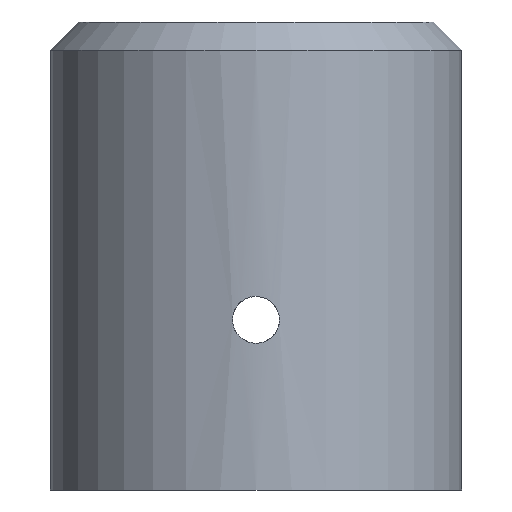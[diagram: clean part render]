
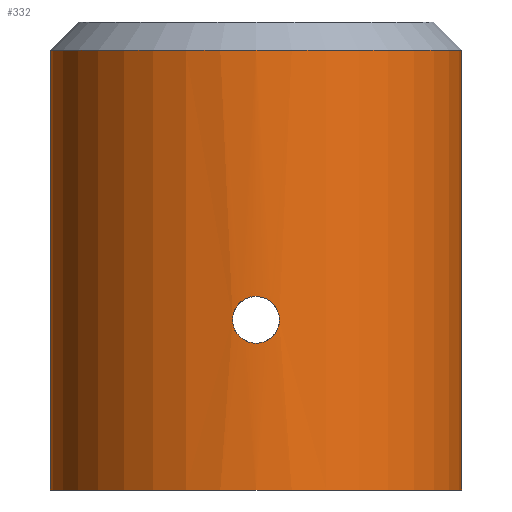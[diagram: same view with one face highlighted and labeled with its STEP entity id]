
A CAD part, front view. The second image highlights one B-rep face of the part: STEP entity #332.
In plain terms, the highlighted cylindrical face has radius 14.5 mm (diameter 29 mm), a partial arc.
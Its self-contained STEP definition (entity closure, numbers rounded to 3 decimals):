
#134 = VERTEX_POINT ( 'NONE', #746 ) ;
#136 = EDGE_CURVE ( 'NONE', #137, #134, #745, .T. ) ;
#137 = VERTEX_POINT ( 'NONE', #744 ) ;
#240 = EDGE_CURVE ( 'NONE', #241, #346, #1207, .T. ) ;
#241 = VERTEX_POINT ( 'NONE', #1203 ) ;
#245 = ORIENTED_EDGE ( 'NONE', *, *, #246, .T. ) ;
#246 = EDGE_CURVE ( 'NONE', #443, #241, #1200, .T. ) ;
#247 = ORIENTED_EDGE ( 'NONE', *, *, #240, .T. ) ;
#250 = ORIENTED_EDGE ( 'NONE', *, *, #331, .F. ) ;
#251 = EDGE_LOOP ( 'NONE', ( #252, #253 ) ) ;
#252 = ORIENTED_EDGE ( 'NONE', *, *, #136, .T. ) ;
#253 = ORIENTED_EDGE ( 'NONE', *, *, #254, .T. ) ;
#254 = EDGE_CURVE ( 'NONE', #134, #137, #1256, .T. ) ;
#331 = EDGE_CURVE ( 'NONE', #446, #346, #1543, .T. ) ;
#332 = ADVANCED_FACE ( 'NONE', ( #1534, #1533 ), #1531, .T. ) ;
#333 = EDGE_LOOP ( 'NONE', ( #334, #245, #247, #250 ) ) ;
#334 = ORIENTED_EDGE ( 'NONE', *, *, #445, .F. ) ;
#346 = VERTEX_POINT ( 'NONE', #1522 ) ;
#443 = VERTEX_POINT ( 'NONE', #1930 ) ;
#445 = EDGE_CURVE ( 'NONE', #443, #446, #1929, .T. ) ;
#446 = VERTEX_POINT ( 'NONE', #1925 ) ;
#727 = CARTESIAN_POINT ( 'NONE',  ( -1.65, -14.406, -21.216 ) ) ;
#728 = CARTESIAN_POINT ( 'NONE',  ( -1.607, -14.411, -21.433 ) ) ;
#729 = CARTESIAN_POINT ( 'NONE',  ( -1.442, -14.428, -21.83 ) ) ;
#730 = CARTESIAN_POINT ( 'NONE',  ( -1.319, -14.441, -22.014 ) ) ;
#731 = CARTESIAN_POINT ( 'NONE',  ( -1.091, -14.459, -22.243 ) ) ;
#732 = CARTESIAN_POINT ( 'NONE',  ( -1.006, -14.465, -22.312 ) ) ;
#733 = CARTESIAN_POINT ( 'NONE',  ( -0.827, -14.477, -22.432 ) ) ;
#738 = CARTESIAN_POINT ( 'NONE',  ( -0.732, -14.482, -22.483 ) ) ;
#739 = CARTESIAN_POINT ( 'NONE',  ( -0.532, -14.491, -22.566 ) ) ;
#740 = CARTESIAN_POINT ( 'NONE',  ( -0.427, -14.494, -22.597 ) ) ;
#741 = CARTESIAN_POINT ( 'NONE',  ( -0.216, -14.499, -22.639 ) ) ;
#742 = CARTESIAN_POINT ( 'NONE',  ( -0.109, -14.5, -22.65 ) ) ;
#743 = CARTESIAN_POINT ( 'NONE',  ( 0., -14.5, -22.65 ) ) ;
#744 = CARTESIAN_POINT ( 'NONE',  ( 0., -14.5, -22.65 ) ) ;
#745 = B_SPLINE_CURVE_WITH_KNOTS ( 'NONE', 3,
 ( #743, #742, #741, #740, #739, #738, #733, #732, #731, #730, #729, #728, #727, #868, #867, #866, #865, #864, #863, #862, #861, #860, #859, #858, #857, #856, #855, #854, #853, #852 ),
 .UNSPECIFIED., .F., .F.,
 ( 4, 2, 2, 2, 2, 2, 2, 2, 2, 2, 2, 2, 2, 2, 4 ),
 ( 0., 0., 0.001, 0.001, 0.001, 0.002, 0.003, 0.003, 0.003, 0.004, 0.004, 0.004, 0.005, 0.005, 0.005 ),
 .UNSPECIFIED. ) ;
#746 = CARTESIAN_POINT ( 'NONE',  ( 0., -14.5, -19.35 ) ) ;
#852 = CARTESIAN_POINT ( 'NONE',  ( 0., -14.5, -19.35 ) ) ;
#853 = CARTESIAN_POINT ( 'NONE',  ( -0.108, -14.5, -19.35 ) ) ;
#854 = CARTESIAN_POINT ( 'NONE',  ( -0.217, -14.499, -19.361 ) ) ;
#855 = CARTESIAN_POINT ( 'NONE',  ( -0.429, -14.494, -19.403 ) ) ;
#856 = CARTESIAN_POINT ( 'NONE',  ( -0.532, -14.491, -19.434 ) ) ;
#857 = CARTESIAN_POINT ( 'NONE',  ( -0.731, -14.482, -19.517 ) ) ;
#858 = CARTESIAN_POINT ( 'NONE',  ( -0.828, -14.477, -19.569 ) ) ;
#859 = CARTESIAN_POINT ( 'NONE',  ( -1.007, -14.465, -19.688 ) ) ;
#860 = CARTESIAN_POINT ( 'NONE',  ( -1.09, -14.459, -19.756 ) ) ;
#861 = CARTESIAN_POINT ( 'NONE',  ( -1.244, -14.447, -19.91 ) ) ;
#862 = CARTESIAN_POINT ( 'NONE',  ( -1.312, -14.441, -19.994 ) ) ;
#863 = CARTESIAN_POINT ( 'NONE',  ( -1.432, -14.429, -20.172 ) ) ;
#864 = CARTESIAN_POINT ( 'NONE',  ( -1.483, -14.424, -20.269 ) ) ;
#865 = CARTESIAN_POINT ( 'NONE',  ( -1.566, -14.415, -20.469 ) ) ;
#866 = CARTESIAN_POINT ( 'NONE',  ( -1.597, -14.412, -20.572 ) ) ;
#867 = CARTESIAN_POINT ( 'NONE',  ( -1.639, -14.407, -20.783 ) ) ;
#868 = CARTESIAN_POINT ( 'NONE',  ( -1.65, -14.406, -20.893 ) ) ;
#1157 = CARTESIAN_POINT ( 'NONE',  ( 1.566, -14.415, -21.531 ) ) ;
#1158 = CARTESIAN_POINT ( 'NONE',  ( 1.598, -14.412, -21.426 ) ) ;
#1159 = CARTESIAN_POINT ( 'NONE',  ( 1.639, -14.407, -21.215 ) ) ;
#1160 = CARTESIAN_POINT ( 'NONE',  ( 1.65, -14.406, -21.108 ) ) ;
#1161 = CARTESIAN_POINT ( 'NONE',  ( 1.65, -14.406, -20.89 ) ) ;
#1162 = CARTESIAN_POINT ( 'NONE',  ( 1.639, -14.407, -20.782 ) ) ;
#1163 = CARTESIAN_POINT ( 'NONE',  ( 1.597, -14.412, -20.572 ) ) ;
#1164 = CARTESIAN_POINT ( 'NONE',  ( 1.565, -14.415, -20.467 ) ) ;
#1165 = CARTESIAN_POINT ( 'NONE',  ( 1.482, -14.424, -20.267 ) ) ;
#1166 = CARTESIAN_POINT ( 'NONE',  ( 1.432, -14.429, -20.172 ) ) ;
#1167 = CARTESIAN_POINT ( 'NONE',  ( 1.312, -14.441, -19.993 ) ) ;
#1168 = CARTESIAN_POINT ( 'NONE',  ( 1.242, -14.447, -19.908 ) ) ;
#1169 = CARTESIAN_POINT ( 'NONE',  ( 1.014, -14.465, -19.68 ) ) ;
#1184 = CARTESIAN_POINT ( 'NONE',  ( 0., -14.5, -22.65 ) ) ;
#1185 = CARTESIAN_POINT ( 'NONE',  ( 0.218, -14.5, -22.65 ) ) ;
#1186 = CARTESIAN_POINT ( 'NONE',  ( 0.435, -14.495, -22.606 ) ) ;
#1187 = CARTESIAN_POINT ( 'NONE',  ( 0.832, -14.477, -22.441 ) ) ;
#1188 = CARTESIAN_POINT ( 'NONE',  ( 1.016, -14.465, -22.318 ) ) ;
#1189 = CARTESIAN_POINT ( 'NONE',  ( 1.244, -14.447, -22.09 ) ) ;
#1190 = CARTESIAN_POINT ( 'NONE',  ( 1.313, -14.441, -22.005 ) ) ;
#1191 = CARTESIAN_POINT ( 'NONE',  ( 1.433, -14.429, -21.826 ) ) ;
#1192 = CARTESIAN_POINT ( 'NONE',  ( 1.483, -14.424, -21.731 ) ) ;
#1196 = DIRECTION ( 'NONE',  ( 1., 0., 0. ) ) ;
#1197 = DIRECTION ( 'NONE',  ( 0., 0., 1. ) ) ;
#1198 = CARTESIAN_POINT ( 'NONE',  ( 0., 0., -33. ) ) ;
#1199 = AXIS2_PLACEMENT_3D ( 'NONE', #1198, #1197, #1196 ) ;
#1200 = CIRCLE ( 'NONE', #1199, 14.5 ) ;
#1203 = CARTESIAN_POINT ( 'NONE',  ( 14.5, 0., -33. ) ) ;
#1204 = DIRECTION ( 'NONE',  ( 0., 0., 1. ) ) ;
#1205 = VECTOR ( 'NONE', #1204, 1000. ) ;
#1206 = CARTESIAN_POINT ( 'NONE',  ( 14.5, 0., 0. ) ) ;
#1207 = LINE ( 'NONE', #1206, #1205 ) ;
#1251 = CARTESIAN_POINT ( 'NONE',  ( 0.83, -14.478, -19.558 ) ) ;
#1252 = CARTESIAN_POINT ( 'NONE',  ( 0.433, -14.495, -19.393 ) ) ;
#1253 = CARTESIAN_POINT ( 'NONE',  ( 0.215, -14.5, -19.35 ) ) ;
#1254 = CARTESIAN_POINT ( 'NONE',  ( 0., -14.5, -19.35 ) ) ;
#1256 = B_SPLINE_CURVE_WITH_KNOTS ( 'NONE', 3,
 ( #1254, #1253, #1252, #1251, #1169, #1168, #1167, #1166, #1165, #1164, #1163, #1162, #1161, #1160, #1159, #1158, #1157, #1192, #1191, #1190, #1189, #1188, #1187, #1186, #1185, #1184 ),
 .UNSPECIFIED., .F., .F.,
 ( 4, 2, 2, 2, 2, 2, 2, 2, 2, 2, 2, 2, 4 ),
 ( 0.005, 0.006, 0.006, 0.007, 0.007, 0.007, 0.008, 0.008, 0.008, 0.009, 0.009, 0.01, 0.01 ),
 .UNSPECIFIED. ) ;
#1522 = CARTESIAN_POINT ( 'NONE',  ( 14.5, 0., -2. ) ) ;
#1531 = CYLINDRICAL_SURFACE ( 'NONE', #1532, 14.5 ) ;
#1532 = AXIS2_PLACEMENT_3D ( 'NONE', #1647, #1646, #1645 ) ;
#1533 = FACE_BOUND ( 'NONE', #251, .T. ) ;
#1534 = FACE_OUTER_BOUND ( 'NONE', #333, .T. ) ;
#1535 = DIRECTION ( 'NONE',  ( 1., 0., 0. ) ) ;
#1536 = DIRECTION ( 'NONE',  ( 0., 0., 1. ) ) ;
#1537 = CARTESIAN_POINT ( 'NONE',  ( 0., 0., -2. ) ) ;
#1538 = AXIS2_PLACEMENT_3D ( 'NONE', #1537, #1536, #1535 ) ;
#1543 = CIRCLE ( 'NONE', #1538, 14.5 ) ;
#1645 = DIRECTION ( 'NONE',  ( 1., 0., 0. ) ) ;
#1646 = DIRECTION ( 'NONE',  ( 0., 0., 1. ) ) ;
#1647 = CARTESIAN_POINT ( 'NONE',  ( 0., 0., 0. ) ) ;
#1925 = CARTESIAN_POINT ( 'NONE',  ( -14.5, 0., -2. ) ) ;
#1926 = DIRECTION ( 'NONE',  ( 0., 0., 1. ) ) ;
#1927 = VECTOR ( 'NONE', #1926, 1000. ) ;
#1928 = CARTESIAN_POINT ( 'NONE',  ( -14.5, 0., 0. ) ) ;
#1929 = LINE ( 'NONE', #1928, #1927 ) ;
#1930 = CARTESIAN_POINT ( 'NONE',  ( -14.5, 0., -33. ) ) ;
